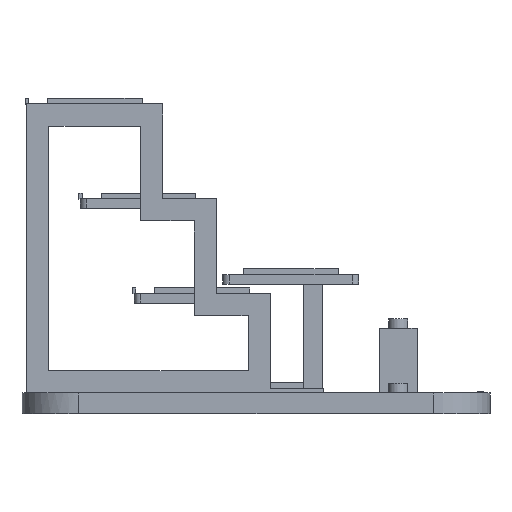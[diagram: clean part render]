
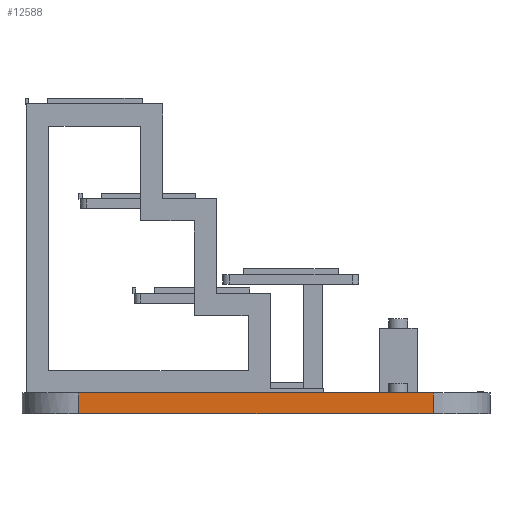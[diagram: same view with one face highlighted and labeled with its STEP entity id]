
A CAD part, left-side view. The second image highlights one B-rep face of the part: STEP entity #12588.
In plain terms, the highlighted planar face has unit normal (-1, 0, 0).
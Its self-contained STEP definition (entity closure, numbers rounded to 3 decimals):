
#62 = PLANE('',#63);
#63 = AXIS2_PLACEMENT_3D('',#64,#65,#66);
#64 = CARTESIAN_POINT('',(0.,0.,0.));
#65 = DIRECTION('',(0.,0.,1.));
#66 = DIRECTION('',(1.,0.,-0.));
#90 = CYLINDRICAL_SURFACE('',#91,18.);
#91 = AXIS2_PLACEMENT_3D('',#92,#93,#94);
#92 = CARTESIAN_POINT('',(-72.,-56.,0.));
#93 = DIRECTION('',(0.,0.,1.));
#94 = DIRECTION('',(0.,-1.,0.));
#118 = PLANE('',#119);
#119 = AXIS2_PLACEMENT_3D('',#120,#121,#122);
#120 = CARTESIAN_POINT('',(0.,0.,6.6));
#121 = DIRECTION('',(0.,0.,1.));
#122 = DIRECTION('',(1.,0.,-0.));
#270 = VERTEX_POINT('',#271);
#271 = CARTESIAN_POINT('',(-90.,56.,0.));
#286 = CYLINDRICAL_SURFACE('',#287,18.);
#287 = AXIS2_PLACEMENT_3D('',#288,#289,#290);
#288 = CARTESIAN_POINT('',(-72.,56.,0.));
#289 = DIRECTION('',(0.,0.,1.));
#290 = DIRECTION('',(-0.,1.,0.));
#298 = EDGE_CURVE('',#270,#299,#301,.T.);
#299 = VERTEX_POINT('',#300);
#300 = CARTESIAN_POINT('',(-90.,-56.,0.));
#301 = SURFACE_CURVE('',#302,(#306,#313),.PCURVE_S1.);
#302 = LINE('',#303,#304);
#303 = CARTESIAN_POINT('',(-90.,74.,0.));
#304 = VECTOR('',#305,1.);
#305 = DIRECTION('',(0.,-1.,0.));
#306 = PCURVE('',#62,#307);
#307 = DEFINITIONAL_REPRESENTATION('',(#308),#312);
#308 = LINE('',#309,#310);
#309 = CARTESIAN_POINT('',(-90.,74.));
#310 = VECTOR('',#311,1.);
#311 = DIRECTION('',(0.,-1.));
#312 = ( GEOMETRIC_REPRESENTATION_CONTEXT(2) 
PARAMETRIC_REPRESENTATION_CONTEXT() REPRESENTATION_CONTEXT('2D SPACE',''
  ) );
#313 = PCURVE('',#314,#319);
#314 = PLANE('',#315);
#315 = AXIS2_PLACEMENT_3D('',#316,#317,#318);
#316 = CARTESIAN_POINT('',(-90.,74.,0.));
#317 = DIRECTION('',(1.,0.,-0.));
#318 = DIRECTION('',(0.,-1.,0.));
#319 = DEFINITIONAL_REPRESENTATION('',(#320),#324);
#320 = LINE('',#321,#322);
#321 = CARTESIAN_POINT('',(0.,0.));
#322 = VECTOR('',#323,1.);
#323 = DIRECTION('',(1.,0.));
#324 = ( GEOMETRIC_REPRESENTATION_CONTEXT(2) 
PARAMETRIC_REPRESENTATION_CONTEXT() REPRESENTATION_CONTEXT('2D SPACE',''
  ) );
#538 = EDGE_CURVE('',#299,#539,#541,.T.);
#539 = VERTEX_POINT('',#540);
#540 = CARTESIAN_POINT('',(-90.,-56.,6.6));
#541 = SURFACE_CURVE('',#542,(#546,#553),.PCURVE_S1.);
#542 = LINE('',#543,#544);
#543 = CARTESIAN_POINT('',(-90.,-56.,0.));
#544 = VECTOR('',#545,1.);
#545 = DIRECTION('',(0.,0.,1.));
#546 = PCURVE('',#90,#547);
#547 = DEFINITIONAL_REPRESENTATION('',(#548),#552);
#548 = LINE('',#549,#550);
#549 = CARTESIAN_POINT('',(-1.571,0.));
#550 = VECTOR('',#551,1.);
#551 = DIRECTION('',(-0.,1.));
#552 = ( GEOMETRIC_REPRESENTATION_CONTEXT(2) 
PARAMETRIC_REPRESENTATION_CONTEXT() REPRESENTATION_CONTEXT('2D SPACE',''
  ) );
#553 = PCURVE('',#314,#554);
#554 = DEFINITIONAL_REPRESENTATION('',(#555),#559);
#555 = LINE('',#556,#557);
#556 = CARTESIAN_POINT('',(130.,0.));
#557 = VECTOR('',#558,1.);
#558 = DIRECTION('',(0.,-1.));
#559 = ( GEOMETRIC_REPRESENTATION_CONTEXT(2) 
PARAMETRIC_REPRESENTATION_CONTEXT() REPRESENTATION_CONTEXT('2D SPACE',''
  ) );
#1151 = VERTEX_POINT('',#1152);
#1152 = CARTESIAN_POINT('',(-90.,56.,6.6));
#1174 = EDGE_CURVE('',#1151,#539,#1175,.T.);
#1175 = SURFACE_CURVE('',#1176,(#1180,#1187),.PCURVE_S1.);
#1176 = LINE('',#1177,#1178);
#1177 = CARTESIAN_POINT('',(-90.,74.,6.6));
#1178 = VECTOR('',#1179,1.);
#1179 = DIRECTION('',(0.,-1.,0.));
#1180 = PCURVE('',#118,#1181);
#1181 = DEFINITIONAL_REPRESENTATION('',(#1182),#1186);
#1182 = LINE('',#1183,#1184);
#1183 = CARTESIAN_POINT('',(-90.,74.));
#1184 = VECTOR('',#1185,1.);
#1185 = DIRECTION('',(0.,-1.));
#1186 = ( GEOMETRIC_REPRESENTATION_CONTEXT(2) 
PARAMETRIC_REPRESENTATION_CONTEXT() REPRESENTATION_CONTEXT('2D SPACE',''
  ) );
#1187 = PCURVE('',#314,#1188);
#1188 = DEFINITIONAL_REPRESENTATION('',(#1189),#1193);
#1189 = LINE('',#1190,#1191);
#1190 = CARTESIAN_POINT('',(0.,-6.6));
#1191 = VECTOR('',#1192,1.);
#1192 = DIRECTION('',(1.,0.));
#1193 = ( GEOMETRIC_REPRESENTATION_CONTEXT(2) 
PARAMETRIC_REPRESENTATION_CONTEXT() REPRESENTATION_CONTEXT('2D SPACE',''
  ) );
#12588 = ADVANCED_FACE('',(#12589),#314,.F.);
#12589 = FACE_BOUND('',#12590,.F.);
#12590 = EDGE_LOOP('',(#12591,#12592,#12613,#12614));
#12591 = ORIENTED_EDGE('',*,*,#298,.F.);
#12592 = ORIENTED_EDGE('',*,*,#12593,.T.);
#12593 = EDGE_CURVE('',#270,#1151,#12594,.T.);
#12594 = SURFACE_CURVE('',#12595,(#12599,#12606),.PCURVE_S1.);
#12595 = LINE('',#12596,#12597);
#12596 = CARTESIAN_POINT('',(-90.,56.,0.));
#12597 = VECTOR('',#12598,1.);
#12598 = DIRECTION('',(0.,0.,1.));
#12599 = PCURVE('',#314,#12600);
#12600 = DEFINITIONAL_REPRESENTATION('',(#12601),#12605);
#12601 = LINE('',#12602,#12603);
#12602 = CARTESIAN_POINT('',(18.,0.));
#12603 = VECTOR('',#12604,1.);
#12604 = DIRECTION('',(0.,-1.));
#12605 = ( GEOMETRIC_REPRESENTATION_CONTEXT(2) 
PARAMETRIC_REPRESENTATION_CONTEXT() REPRESENTATION_CONTEXT('2D SPACE',''
  ) );
#12606 = PCURVE('',#286,#12607);
#12607 = DEFINITIONAL_REPRESENTATION('',(#12608),#12612);
#12608 = LINE('',#12609,#12610);
#12609 = CARTESIAN_POINT('',(1.571,0.));
#12610 = VECTOR('',#12611,1.);
#12611 = DIRECTION('',(0.,1.));
#12612 = ( GEOMETRIC_REPRESENTATION_CONTEXT(2) 
PARAMETRIC_REPRESENTATION_CONTEXT() REPRESENTATION_CONTEXT('2D SPACE',''
  ) );
#12613 = ORIENTED_EDGE('',*,*,#1174,.T.);
#12614 = ORIENTED_EDGE('',*,*,#538,.F.);
